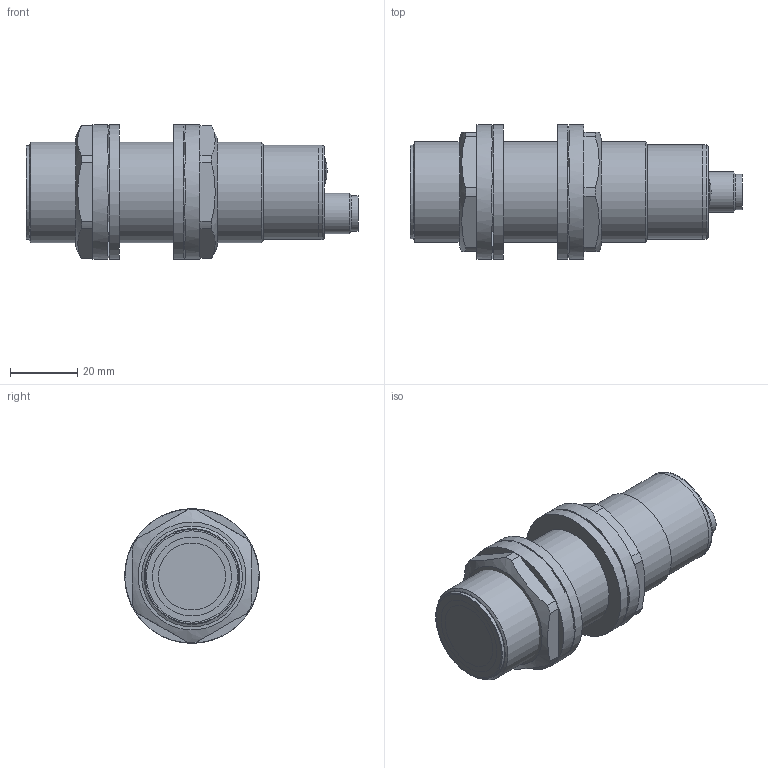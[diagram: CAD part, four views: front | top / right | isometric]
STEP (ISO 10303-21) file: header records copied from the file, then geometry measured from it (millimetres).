
FILE_DESCRIPTION( ( 'Unknown' ), '1' );
FILE_NAME( '//SRVMDFS01/Dati_CAD/Arch_Dis_Prodotti/Definitivi/Ultrasonici/z-Figurini/STP_File/UT1B_0E_AB.stp', 'Unknown', ( 'Unknown' ), ( 'Unknown' ), 'PSStep 15.0.49', 'Unknown', ' ' );
FILE_SCHEMA( ( 'AUTOMOTIVE_DESIGN { 1 0 10303 214 1 1 1 1 }' ) );
Length unit declared in the file: millimetre
Products named in the file (16): 6742A_fig; 6872_fig; 4041B_fig; 4041B_fig-oa1; 4041B_fig-oa2; 4041B_fig-oa3; 4041B_fig-oa4; Assem1; 6733-GXP-UT; 6733-GXP-UT-oa0; 6737-RXS-UT; 6735A_fig; 6732A_fig; 6889_fig; 6738_fig; 6739_fig
Assembly tree (16 placements, depth 3):
  Assem1
    6733-GXP-UT
    6733-GXP-UT-oa0
    6737-RXS-UT  x2
    6735A_fig
    6732A_fig
    6889_fig
    6738_fig
    6739_fig
    6742A_fig
      6872_fig
      4041B_fig
      4041B_fig-oa1
      4041B_fig-oa2
      4041B_fig-oa3
      4041B_fig-oa4
Bounding box: 98.8 x 40 x 40 mm (x, y, z)
Volume: 75008.7 mm3; surface area: 23857.3 mm2
Topology: 15 solids, 15 shells, 226 faces, 537 edges, 357 vertices
Faces by surface type: plane 132, cylinder 67, cone 11, torus 9, bspline 6, sphere 1
Full cylindrical faces by diameter (mm): 1 x5, 1.5 x5, 1.8 x10, 8 x2, 8.3 x2, 9.25 x1, 9.45 x1, 10.5 x1, 12 x1, 20 x1, 23.5 x1, 27.2 x1, 28 x3, 28.2 x2, 30 x3, 40 x4
Entity records: 8399 total; most frequent: CARTESIAN_POINT 1471, DIRECTION 1088, ORIENTED_EDGE 882, AXIS2_PLACEMENT_3D 455, EDGE_CURVE 441, VERTEX_POINT 323, EDGE_LOOP 317, FACE_OUTER_BOUND 272
